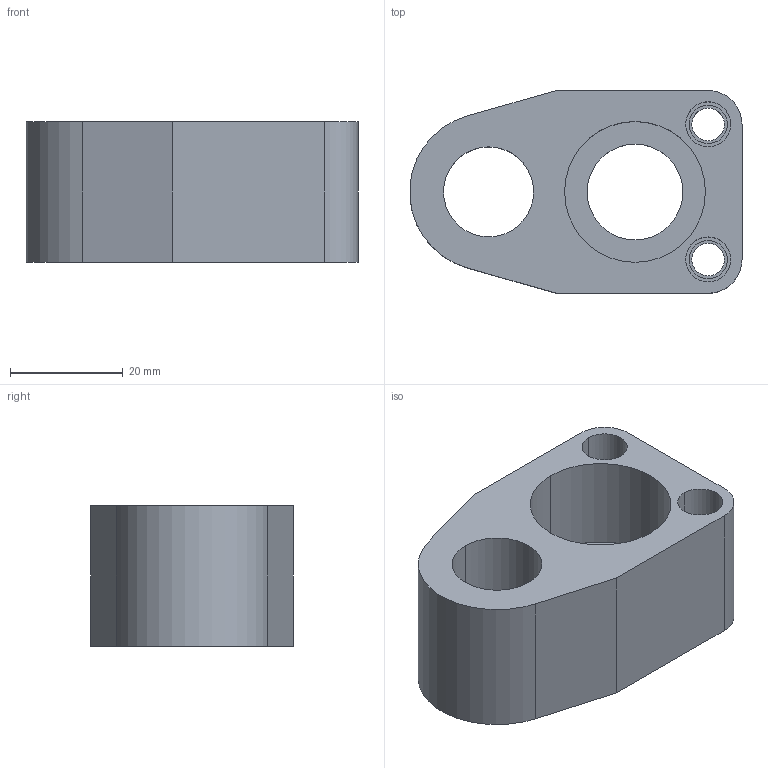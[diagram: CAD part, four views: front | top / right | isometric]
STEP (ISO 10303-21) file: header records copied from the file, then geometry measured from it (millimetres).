
FILE_DESCRIPTION(/* description */ (''),/* implementation_level */ '2;1');
FILE_NAME(/* name */ '3d_tp-asn16_05672_r00.stp',/* time_stamp */ '2011-01-10T14:09:00+09:00',/* author */ ('MISUMI'),/* organization */ (''),/* preprocessor_version */ 'ST-DEVELOPER v11',/* originating_system */ 'UGS - NX 5.0',/* authorisation */ '');
FILE_SCHEMA (('CONFIG_CONTROL_DESIGN'));
Length unit declared in the file: millimetre
Products named in the file (1): 3d_tp-asn16_05672_r00
Bounding box: 58.95 x 36 x 25 mm (x, y, z)
Volume: 29134.1 mm3; surface area: 11102.9 mm2
Topology: 1 solids, 1 shells, 38 faces, 88 edges, 58 vertices
Faces by surface type: cylinder 23, plane 13, cone 2
Entity records: 1206 total; most frequent: DIRECTION 214, CARTESIAN_POINT 185, ORIENTED_EDGE 176, EDGE_CURVE 88, AXIS2_PLACEMENT_3D 87, VERTEX_POINT 58, EDGE_LOOP 52, CIRCLE 48
